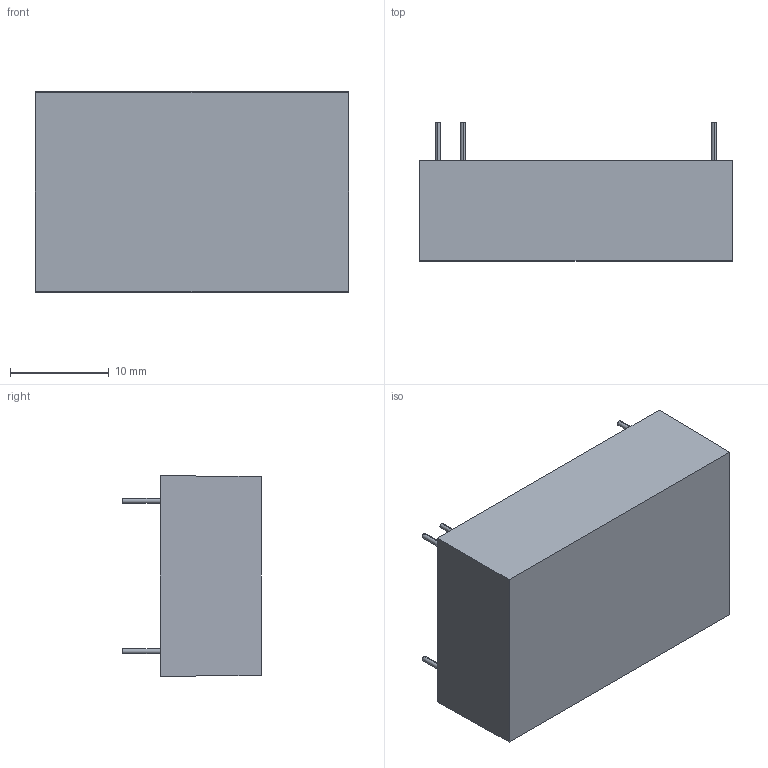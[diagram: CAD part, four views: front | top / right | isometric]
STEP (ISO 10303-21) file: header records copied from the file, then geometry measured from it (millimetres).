
FILE_DESCRIPTION (( 'STEP AP214' ), '1' );
FILE_NAME ('EC4AW-H6.STEP', '2018-01-03T01:47:08', ( 'cincon' ), ( '' ), 'SwSTEP 2.0', 'SolidWorks 2008', '' );
FILE_SCHEMA (( 'AUTOMOTIVE_DESIGN' ));
Length unit declared in the file: millimetre
Products named in the file (4): A2 BASE示意圖 G5212810002(K-C025-01)102,06,05; A2 CASE示意圖 G5114310002(K-C036-01-M)102,06,05; EC4AW-H6(Single)內部組件示意圖102,06,05; EC4AW-H6
Assembly tree (3 placements, depth 2):
  EC4AW-H6
    EC4AW-H6(Single)內部組件示意圖102,06,05
    A2 CASE示意圖 G5114310002(K-C036-01-M)102,06,05
    A2 BASE示意圖 G5212810002(K-C025-01)102,06,05
Bounding box: 31.75 x 14 x 20.3 mm (x, y, z)
Volume: 6451.6 mm3; surface area: 6384.9 mm2
Topology: 9 solids, 9 shells, 325 faces, 867 edges, 578 vertices
Faces by surface type: plane 187, cylinder 100, bspline 38
Entity records: 12620 total; most frequent: CARTESIAN_POINT 4292, ORIENTED_EDGE 1734, DIRECTION 1573, EDGE_CURVE 867, VECTOR 591, LINE 591, VERTEX_POINT 578, AXIS2_PLACEMENT_3D 491
